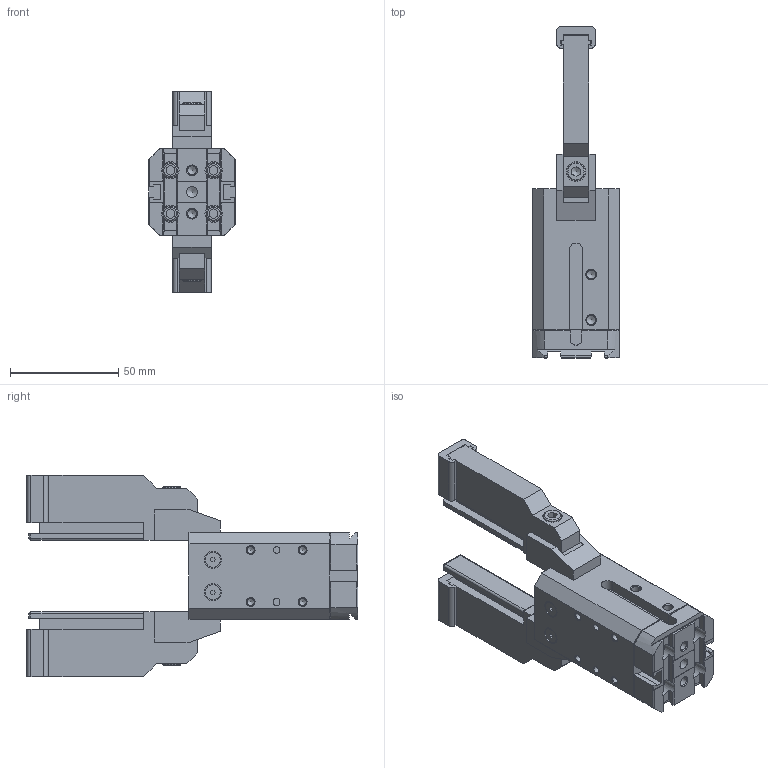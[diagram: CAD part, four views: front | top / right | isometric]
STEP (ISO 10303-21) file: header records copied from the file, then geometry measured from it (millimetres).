
FILE_DESCRIPTION(/* description */ ('Grippers with 2 parallel jaws series P1K-'),/* implementation_level */ '2;1');
FILE_NAME(/* name */ 'W1550200001K(1)__molle.stp',/* time_stamp */ '2025-03-01T07:22:27+01:00',/* author */ ('R5800u'),/* organization */ (''),/* preprocessor_version */ 'ST-DEVELOPER v20',/* originating_system */ 'Autodesk Inventor 2025',/* authorisation */ '');
FILE_SCHEMA (('AUTOMOTIVE_DESIGN { 1 0 10303 214 3 1 1 }'));
Length unit declared in the file: millimetre
Products named in the file (16): W1550200001K(1)//; V_lock_for_W1550200001; P1K-20(1)_2; P1K-20(1); AS 1420 - 1973 - M5 x 20; dito_3; dito_x_molle; tappo_dito; molle; Molla di compressione1; dito_x_molle_MIR1; tappo_dito_MIR1; AS 1427 - M2,5 x 8; molle_MIR; Molla di compressione12_MIR; dito_3_MIR2
Assembly tree (24 placements, depth 3):
  W1550200001K(1)//
    P1K-20(1)  x2
    V_lock_for_W1550200001
    P1K-20(1)_2
    AS 1420 - 1973 - M5 x 20  x2
    dito_3
    dito_x_molle
    tappo_dito
    AS 1427 - M2,5 x 8  x2
    molle  x4
      Molla di compressione1
    dito_x_molle_MIR1
    tappo_dito_MIR1
    molle_MIR  x4
      Molla di compressione12_MIR
    dito_3_MIR2
Bounding box: 40 x 153.23 x 93 mm (x, y, z)
Volume: 159266.2 mm3; surface area: 56941.8 mm2
Topology: 22 solids, 22 shells, 899 faces, 2340 edges, 1549 vertices
Faces by surface type: plane 509, bspline 187, cylinder 108, cone 71, torus 18, sphere 6
Full cylindrical faces by diameter (mm): 2 x2, 2.224 x2, 2.5 x2, 3 x2, 3.2 x2, 3.242 x12, 4.134 x4, 4.9 x8, 4.917 x2, 5 x5, 5.7 x2, 7 x8, 8 x8, 8.5 x2, 9 x2, 22 x1
Entity records: 28022 total; most frequent: CARTESIAN_POINT 9520, ORIENTED_EDGE 3848, DIRECTION 3319, EDGE_CURVE 1924, LINE 1285, VECTOR 1285, VERTEX_POINT 1277, AXIS2_PLACEMENT_3D 1017
